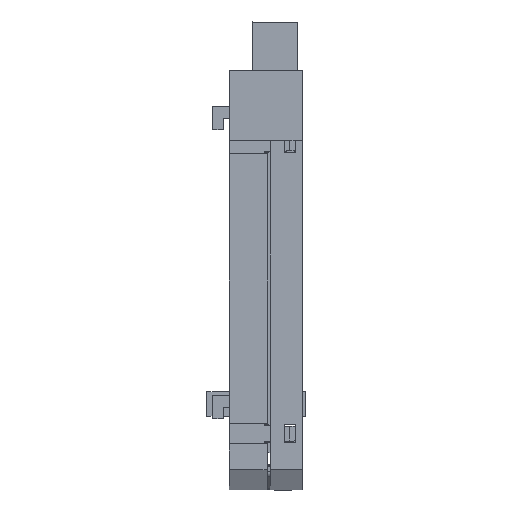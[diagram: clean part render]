
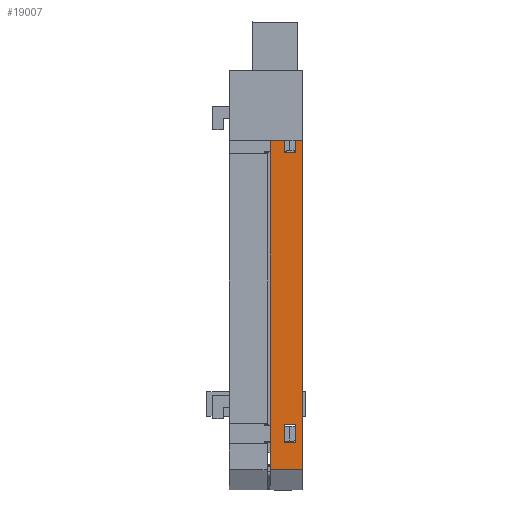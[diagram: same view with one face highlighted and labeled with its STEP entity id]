
A CAD part, front view. The second image highlights one B-rep face of the part: STEP entity #19007.
In plain terms, the highlighted planar face has unit normal (0, -1, 0).
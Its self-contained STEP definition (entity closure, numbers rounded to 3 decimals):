
#78 = VERTEX_POINT ( 'NONE', #18183 ) ;
#152 = DIRECTION ( 'NONE',  ( 0., 0., -1. ) ) ;
#237 = ORIENTED_EDGE ( 'NONE', *, *, #37627, .T. ) ;
#640 = VERTEX_POINT ( 'NONE', #34012 ) ;
#773 = EDGE_CURVE ( 'NONE', #20665, #21126, #34490, .T. ) ;
#817 = DIRECTION ( 'NONE',  ( 0., 0., -1. ) ) ;
#1038 = ORIENTED_EDGE ( 'NONE', *, *, #773, .T. ) ;
#1514 = PLANE ( 'NONE',  #14601 ) ;
#2637 = EDGE_CURVE ( 'NONE', #27262, #78, #34019, .T. ) ;
#2665 = LINE ( 'NONE', #32581, #9576 ) ;
#2698 = VERTEX_POINT ( 'NONE', #19355 ) ;
#3246 = VECTOR ( 'NONE', #25066, 1000. ) ;
#3367 = CARTESIAN_POINT ( 'NONE',  ( 2.4, 0., -57.545 ) ) ;
#3717 = VECTOR ( 'NONE', #4274, 1000. ) ;
#4274 = DIRECTION ( 'NONE',  ( 1., 0., 0. ) ) ;
#4578 = CARTESIAN_POINT ( 'NONE',  ( 2.4, 0., -60.645 ) ) ;
#4604 = DIRECTION ( 'NONE',  ( 0., 0., 1. ) ) ;
#4681 = VERTEX_POINT ( 'NONE', #16618 ) ;
#5294 = EDGE_CURVE ( 'NONE', #13000, #27262, #7557, .T. ) ;
#5329 = VECTOR ( 'NONE', #32640, 1000. ) ;
#5680 = VERTEX_POINT ( 'NONE', #33856 ) ;
#5767 = CARTESIAN_POINT ( 'NONE',  ( 2.4, 0., -10.945 ) ) ;
#5914 = EDGE_CURVE ( 'NONE', #13756, #13000, #6071, .T. ) ;
#5935 = CARTESIAN_POINT ( 'NONE',  ( 5.5, 0., -65.25 ) ) ;
#6071 = LINE ( 'NONE', #25508, #20823 ) ;
#6624 = DIRECTION ( 'NONE',  ( -1., 0., 0. ) ) ;
#7557 = LINE ( 'NONE', #5767, #30100 ) ;
#7695 = DIRECTION ( 'NONE',  ( 0., 0., 1. ) ) ;
#7717 = EDGE_CURVE ( 'NONE', #2698, #31029, #23348, .T. ) ;
#8006 = VECTOR ( 'NONE', #29606, 1000. ) ;
#8797 = ORIENTED_EDGE ( 'NONE', *, *, #18034, .T. ) ;
#8956 = EDGE_CURVE ( 'NONE', #4681, #5680, #31434, .T. ) ;
#9576 = VECTOR ( 'NONE', #17973, 1000. ) ;
#10105 = ORIENTED_EDGE ( 'NONE', *, *, #8956, .F. ) ;
#10111 = ORIENTED_EDGE ( 'NONE', *, *, #36545, .F. ) ;
#10324 = VERTEX_POINT ( 'NONE', #19710 ) ;
#11167 = EDGE_LOOP ( 'NONE', ( #32920, #10105, #10111, #13935 ) ) ;
#11232 = ORIENTED_EDGE ( 'NONE', *, *, #30685, .T. ) ;
#11740 = CARTESIAN_POINT ( 'NONE',  ( 4.4, 0., -60.645 ) ) ;
#12239 = VECTOR ( 'NONE', #7695, 1000. ) ;
#13000 = VERTEX_POINT ( 'NONE', #35133 ) ;
#13374 = ORIENTED_EDGE ( 'NONE', *, *, #5914, .T. ) ;
#13517 = EDGE_LOOP ( 'NONE', ( #17204, #30898, #237, #13374 ) ) ;
#13651 = FACE_BOUND ( 'NONE', #37277, .T. ) ;
#13756 = VERTEX_POINT ( 'NONE', #34266 ) ;
#13935 = ORIENTED_EDGE ( 'NONE', *, *, #7717, .T. ) ;
#14122 = LINE ( 'NONE', #3367, #5329 ) ;
#14601 = AXIS2_PLACEMENT_3D ( 'NONE', #16349, #22248, #4604 ) ;
#14684 = DIRECTION ( 'NONE',  ( 0., 0., 1. ) ) ;
#15552 = CARTESIAN_POINT ( 'NONE',  ( 4.4, 0., -10.945 ) ) ;
#16349 = CARTESIAN_POINT ( 'NONE',  ( 5.5, 0., 0. ) ) ;
#16618 = CARTESIAN_POINT ( 'NONE',  ( 5.5, 0., -65.25 ) ) ;
#17204 = ORIENTED_EDGE ( 'NONE', *, *, #5294, .T. ) ;
#17973 = DIRECTION ( 'NONE',  ( 0., 0., -1. ) ) ;
#18034 = EDGE_CURVE ( 'NONE', #640, #20665, #2665, .T. ) ;
#18183 = CARTESIAN_POINT ( 'NONE',  ( 4.4, 0., -7.845 ) ) ;
#19007 = ADVANCED_FACE ( 'NONE', ( #37016, #13651, #36064 ), #1514, .F. ) ;
#19355 = CARTESIAN_POINT ( 'NONE',  ( 5.5, 0., 0. ) ) ;
#19710 = CARTESIAN_POINT ( 'NONE',  ( 2.4, 0., -57.545 ) ) ;
#20665 = VERTEX_POINT ( 'NONE', #11740 ) ;
#20823 = VECTOR ( 'NONE', #22554, 1000. ) ;
#21126 = VERTEX_POINT ( 'NONE', #26555 ) ;
#21920 = CARTESIAN_POINT ( 'NONE',  ( 2.4, 0., -7.845 ) ) ;
#22248 = DIRECTION ( 'NONE',  ( 0., 1., 0. ) ) ;
#22424 = VECTOR ( 'NONE', #6624, 1000. ) ;
#22554 = DIRECTION ( 'NONE',  ( -1., 0., 0. ) ) ;
#22643 = DIRECTION ( 'NONE',  ( 0., 0., -1. ) ) ;
#23348 = LINE ( 'NONE', #24252, #22424 ) ;
#23987 = EDGE_CURVE ( 'NONE', #31029, #5680, #32498, .T. ) ;
#24252 = CARTESIAN_POINT ( 'NONE',  ( 5.5, 0., 0. ) ) ;
#24588 = LINE ( 'NONE', #35330, #31486 ) ;
#25066 = DIRECTION ( 'NONE',  ( -1., 0., 0. ) ) ;
#25508 = CARTESIAN_POINT ( 'NONE',  ( 2.4, 0., -10.945 ) ) ;
#26555 = CARTESIAN_POINT ( 'NONE',  ( 2.4, 0., -60.645 ) ) ;
#27262 = VERTEX_POINT ( 'NONE', #38065 ) ;
#28539 = CARTESIAN_POINT ( 'NONE',  ( 0., 0., 0. ) ) ;
#28632 = LINE ( 'NONE', #15552, #29553 ) ;
#28780 = LINE ( 'NONE', #4578, #12239 ) ;
#29553 = VECTOR ( 'NONE', #817, 1000. ) ;
#29606 = DIRECTION ( 'NONE',  ( -1., 0., 0. ) ) ;
#30100 = VECTOR ( 'NONE', #14684, 1000. ) ;
#30685 = EDGE_CURVE ( 'NONE', #10324, #640, #14122, .T. ) ;
#30898 = ORIENTED_EDGE ( 'NONE', *, *, #2637, .T. ) ;
#31029 = VERTEX_POINT ( 'NONE', #32459 ) ;
#31434 = LINE ( 'NONE', #5935, #8006 ) ;
#31486 = VECTOR ( 'NONE', #152, 1000. ) ;
#31595 = VECTOR ( 'NONE', #22643, 1000. ) ;
#32459 = CARTESIAN_POINT ( 'NONE',  ( 0., 0., 0. ) ) ;
#32498 = LINE ( 'NONE', #28539, #31595 ) ;
#32581 = CARTESIAN_POINT ( 'NONE',  ( 4.4, 0., -60.645 ) ) ;
#32640 = DIRECTION ( 'NONE',  ( 1., 0., 0. ) ) ;
#32920 = ORIENTED_EDGE ( 'NONE', *, *, #23987, .T. ) ;
#33856 = CARTESIAN_POINT ( 'NONE',  ( 0., 0., -65.25 ) ) ;
#34012 = CARTESIAN_POINT ( 'NONE',  ( 4.4, 0., -57.545 ) ) ;
#34019 = LINE ( 'NONE', #21920, #3717 ) ;
#34266 = CARTESIAN_POINT ( 'NONE',  ( 4.4, 0., -10.945 ) ) ;
#34490 = LINE ( 'NONE', #36680, #3246 ) ;
#35133 = CARTESIAN_POINT ( 'NONE',  ( 2.4, 0., -10.945 ) ) ;
#35330 = CARTESIAN_POINT ( 'NONE',  ( 5.5, 0., 0. ) ) ;
#35752 = EDGE_CURVE ( 'NONE', #21126, #10324, #28780, .T. ) ;
#36064 = FACE_OUTER_BOUND ( 'NONE', #11167, .T. ) ;
#36545 = EDGE_CURVE ( 'NONE', #2698, #4681, #24588, .T. ) ;
#36680 = CARTESIAN_POINT ( 'NONE',  ( 2.4, 0., -60.645 ) ) ;
#37016 = FACE_BOUND ( 'NONE', #13517, .T. ) ;
#37277 = EDGE_LOOP ( 'NONE', ( #1038, #37554, #11232, #8797 ) ) ;
#37554 = ORIENTED_EDGE ( 'NONE', *, *, #35752, .T. ) ;
#37627 = EDGE_CURVE ( 'NONE', #78, #13756, #28632, .T. ) ;
#38065 = CARTESIAN_POINT ( 'NONE',  ( 2.4, 0., -7.845 ) ) ;
